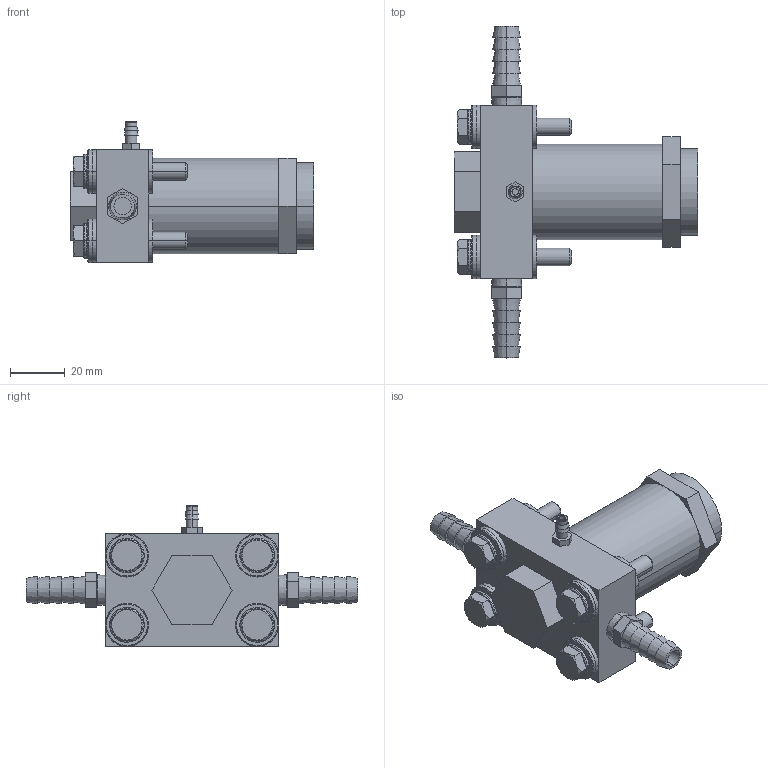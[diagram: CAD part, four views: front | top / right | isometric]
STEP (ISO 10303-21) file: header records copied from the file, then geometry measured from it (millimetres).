
FILE_DESCRIPTION((''),'2;1');
FILE_NAME('UK3_ASM','2017-08-24T',('jennifer.elliott'),('CenterLine (Windsor) Ltd - Automation Components Division'),'PRO/ENGINEER BY PARAMETRIC TECHNOLOGY CORPORATION, 2015030','PRO/ENGINEER BY PARAMETRIC TECHNOLOGY CORPORATION, 2015030','');
FILE_SCHEMA(('AUTOMOTIVE_DESIGN { 1 0 10303 214 1 1 1 1 }'));
Length unit declared in the file: inch
Products named in the file (30): PRT0470; PRT0471; PRT0472; PRT0473; TMP_DWG-3DSOLID_36_ASM; PRT0474; PRT0475; PRT0476; PRT0477; PRT0478; PRT0479; PRT0480; PRT0481; PRT0482; PRT0483; PRT0484; PRT0485; PRT0486; PRT0487; PRT0488; PRT0489; PRT0490; PRT0491; PRT0492; PRT0493; PRT0494; PRT0495; PRT0496; PRT0497; UK3_ASM
Assembly tree (29 placements, depth 3):
  UK3_ASM
    TMP_DWG-3DSOLID_36_ASM
      PRT0470
      PRT0471
      PRT0472
      PRT0473
    PRT0474
    PRT0475
    PRT0476
    PRT0477
    PRT0478
    PRT0479
    PRT0480
    PRT0481
    PRT0482
    PRT0483
    PRT0484
    PRT0485
    PRT0486
    PRT0487
    PRT0488
    PRT0489
    PRT0490
    PRT0491
    PRT0492
    PRT0493
    PRT0494
    PRT0495
    PRT0496
    PRT0497
Bounding box: 88.9 x 121.41 x 51.59 mm (x, y, z)
Volume: 123466.1 mm3; surface area: 42721.9 mm2
Topology: 28 solids, 28 shells, 321 faces, 706 edges, 462 vertices
Faces by surface type: plane 147, cylinder 86, cone 60, torus 28
Entity records: 11184 total; most frequent: CARTESIAN_POINT 2089, DIRECTION 1720, ORIENTED_EDGE 1412, AXIS2_PLACEMENT_3D 718, EDGE_CURVE 706, VERTEX_POINT 462, EDGE_LOOP 372, CIRCLE 334
